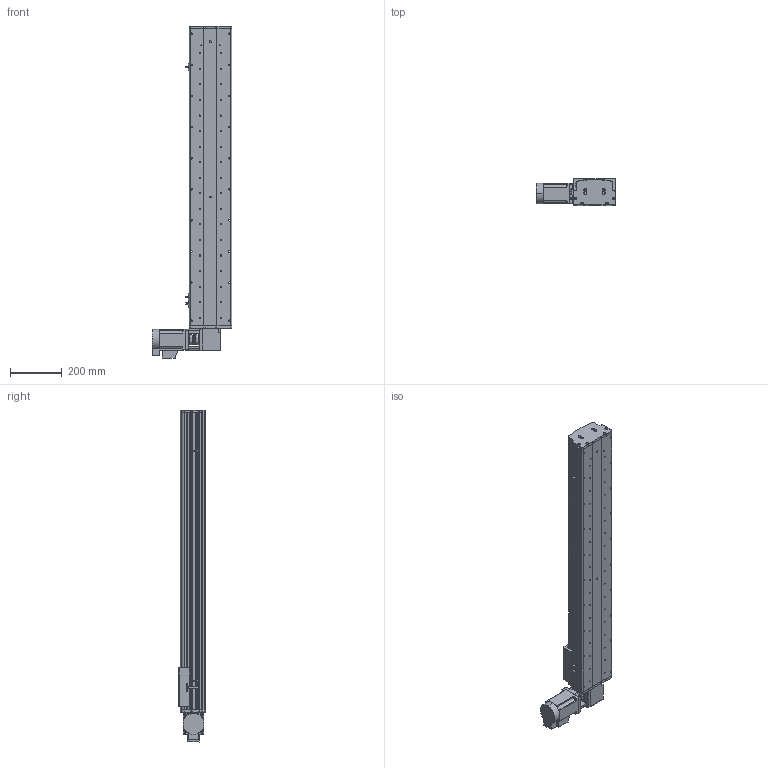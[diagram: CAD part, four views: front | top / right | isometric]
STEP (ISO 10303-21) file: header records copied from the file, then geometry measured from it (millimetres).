
FILE_DESCRIPTION (( 'STEP AP214' ), '1' );
FILE_NAME ('KSD165B-S900-MRT-CM.STEP', '2017-10-17T01:27:05', ( '微软用户' ), ( '微软中国' ), 'SwSTEP 2.0', 'SolidWorks 2014', '' );
FILE_SCHEMA (( 'AUTOMOTIVE_DESIGN' ));
Length unit declared in the file: millimetre
Products named in the file (16): 165宽马达安装板同步带左-改; KSD165模组-同步带防尘盖1-900行程-最新版; KSD165模组同步带底板-900行程-最新; 拸秶雄ん750W侜督萇儂; 165宽安装板同步带带电机座750W; C39ㄜ1419WP; U倰嫖萇假蚾璃; U倰嫖萇EEㄜSX672; 覜茼え68遵圉猾敕; KSD165模组-同步带-防撞垫2; KSD165模组同步带-防撞垫1; KSD165耀郪-ヶ傷啣1-肮祭湍; KSD165模组-后端板1-同步带; 130宽马达安装板1-带电机座750W（1）; KSD165模组-同步带滑动座-最新版; KSD165B-S900-MRT-CM
Assembly tree (19 placements, depth 2):
  KSD165B-S900-MRT-CM
    KSD165模组-同步带滑动座-最新版
    130宽马达安装板1-带电机座750W（1）
    KSD165模组-后端板1-同步带
    KSD165耀郪-ヶ傷啣1-肮祭湍
    KSD165模组同步带-防撞垫1
    KSD165模组-同步带-防撞垫2
    覜茼え68遵圉猾敕
    U倰嫖萇EEㄜSX672  x3
    U倰嫖萇假蚾璃  x3
    C39ㄜ1419WP
    165宽安装板同步带带电机座750W
    拸秶雄ん750W侜督萇儂
    KSD165模组同步带底板-900行程-最新
    KSD165模组-同步带防尘盖1-900行程-最新版
    165宽马达安装板同步带左-改
Bounding box: 307.5 x 104 x 1281.06 mm (x, y, z)
Volume: 7434781.1 mm3; surface area: 1675512.9 mm2
Topology: 20 solids, 21 shells, 1500 faces, 4170 edges, 2701 vertices
Faces by surface type: cylinder 825, plane 581, cone 94
Entity records: 47755 total; most frequent: CARTESIAN_POINT 10003, DIRECTION 7424, ORIENTED_EDGE 6992, EDGE_CURVE 3496, AXIS2_PLACEMENT_3D 2826, VERTEX_POINT 2293, LINE 1772, VECTOR 1772
